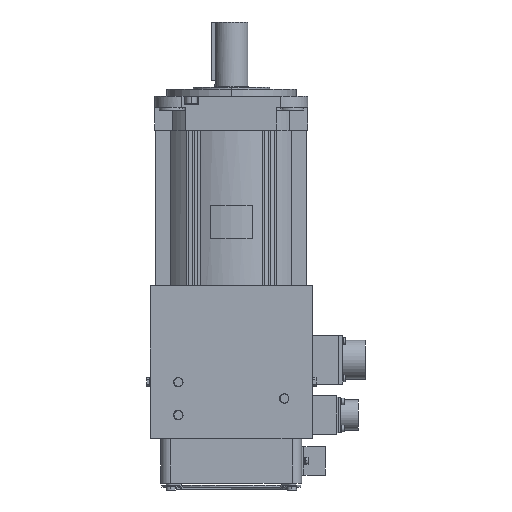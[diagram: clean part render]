
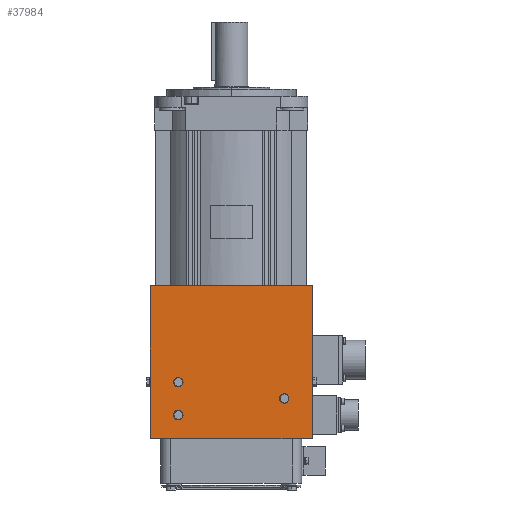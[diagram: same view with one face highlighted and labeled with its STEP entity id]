
A CAD part, left-side view. The second image highlights one B-rep face of the part: STEP entity #37984.
In plain terms, the highlighted planar face has unit normal (-1, 0, 0).
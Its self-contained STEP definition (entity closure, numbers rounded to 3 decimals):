
#5589 = CARTESIAN_POINT ( 'NONE',  ( -68.7, -41., -96. ) ) ;
#5590 = DIRECTION ( 'NONE',  ( 0., -1., 0. ) ) ;
#5591 = DIRECTION ( 'NONE',  ( -1., 0., 0. ) ) ;
#5592 = CARTESIAN_POINT ( 'NONE',  ( -68.7, -45., -96. ) ) ;
#5593 = AXIS2_PLACEMENT_3D ( 'NONE', #5592, #5591, #5590 ) ;
#5594 = CIRCLE ( 'NONE', #5593, 4. ) ;
#5595 = CARTESIAN_POINT ( 'NONE',  ( -68.7, -49., -96. ) ) ;
#5729 = CARTESIAN_POINT ( 'NONE',  ( -68.7, 49., -110. ) ) ;
#5730 = DIRECTION ( 'NONE',  ( 0., -1., 0. ) ) ;
#5731 = DIRECTION ( 'NONE',  ( -1., 0., 0. ) ) ;
#5732 = CARTESIAN_POINT ( 'NONE',  ( -68.7, 45., -110. ) ) ;
#5733 = AXIS2_PLACEMENT_3D ( 'NONE', #5732, #5731, #5730 ) ;
#5734 = CIRCLE ( 'NONE', #5733, 4. ) ;
#5735 = CARTESIAN_POINT ( 'NONE',  ( -68.7, 41., -110. ) ) ;
#5859 = CARTESIAN_POINT ( 'NONE',  ( -68.7, 49., -82. ) ) ;
#5860 = DIRECTION ( 'NONE',  ( 0., -1., 0. ) ) ;
#5861 = DIRECTION ( 'NONE',  ( -1., 0., 0. ) ) ;
#5862 = CARTESIAN_POINT ( 'NONE',  ( -68.7, 45., -82. ) ) ;
#5863 = AXIS2_PLACEMENT_3D ( 'NONE', #5862, #5861, #5860 ) ;
#5864 = CIRCLE ( 'NONE', #5863, 4. ) ;
#5865 = CARTESIAN_POINT ( 'NONE',  ( -68.7, 41., -82. ) ) ;
#8307 = DIRECTION ( 'NONE',  ( 0., 0., 1. ) ) ;
#8308 = VECTOR ( 'NONE', #8307, 1000. ) ;
#8309 = CARTESIAN_POINT ( 'NONE',  ( -68.7, 68.7, -130. ) ) ;
#8310 = LINE ( 'NONE', #8309, #8308 ) ;
#8311 = CARTESIAN_POINT ( 'NONE',  ( -68.7, 68.7, -130. ) ) ;
#8321 = CARTESIAN_POINT ( 'NONE',  ( -68.7, 68.7, 0. ) ) ;
#8437 = CARTESIAN_POINT ( 'NONE',  ( -68.7, -68.7, -130. ) ) ;
#8438 = DIRECTION ( 'NONE',  ( 0., 0., 1. ) ) ;
#8439 = VECTOR ( 'NONE', #8438, 1000. ) ;
#8440 = CARTESIAN_POINT ( 'NONE',  ( -68.7, -68.7, -130. ) ) ;
#8441 = LINE ( 'NONE', #8440, #8439 ) ;
#8442 = CARTESIAN_POINT ( 'NONE',  ( -68.7, -68.7, 0. ) ) ;
#8907 = AXIS2_PLACEMENT_3D ( 'NONE', #8971, #8970, #8969 ) ;
#8908 = CIRCLE ( 'NONE', #8907, 4. ) ;
#8909 = DIRECTION ( 'NONE',  ( 0., -1., 0. ) ) ;
#8910 = DIRECTION ( 'NONE',  ( -1., 0., 0. ) ) ;
#8911 = CARTESIAN_POINT ( 'NONE',  ( -68.7, 45., -82. ) ) ;
#8912 = AXIS2_PLACEMENT_3D ( 'NONE', #8911, #8910, #8909 ) ;
#8913 = CIRCLE ( 'NONE', #8912, 4. ) ;
#8914 = DIRECTION ( 'NONE',  ( 0., -1., 0. ) ) ;
#8915 = VECTOR ( 'NONE', #8914, 1000. ) ;
#8916 = CARTESIAN_POINT ( 'NONE',  ( -68.7, 68.7, -130. ) ) ;
#8917 = LINE ( 'NONE', #8916, #8915 ) ;
#8918 = DIRECTION ( 'NONE',  ( 0., -1., 0. ) ) ;
#8919 = VECTOR ( 'NONE', #8918, 1000. ) ;
#8920 = CARTESIAN_POINT ( 'NONE',  ( -68.7, 68.7, 0. ) ) ;
#8921 = LINE ( 'NONE', #8920, #8919 ) ;
#8942 = DIRECTION ( 'NONE',  ( 0., -1., 0. ) ) ;
#8944 = DIRECTION ( 'NONE',  ( -1., 0., 0. ) ) ;
#8945 = CARTESIAN_POINT ( 'NONE',  ( -68.7, 45., -110. ) ) ;
#8946 = AXIS2_PLACEMENT_3D ( 'NONE', #8945, #8944, #8942 ) ;
#8947 = CIRCLE ( 'NONE', #8946, 4. ) ;
#8948 = DIRECTION ( 'NONE',  ( 0., -1., 0. ) ) ;
#8949 = DIRECTION ( 'NONE',  ( -1., 0., 0. ) ) ;
#8950 = CARTESIAN_POINT ( 'NONE',  ( -68.7, 68.7, -130. ) ) ;
#8951 = AXIS2_PLACEMENT_3D ( 'NONE', #8950, #8949, #8948 ) ;
#8952 = PLANE ( 'NONE',  #8951 ) ;
#8953 = FACE_BOUND ( 'NONE', #37974, .T. ) ;
#8954 = FACE_BOUND ( 'NONE', #37970, .T. ) ;
#8955 = FACE_OUTER_BOUND ( 'NONE', #37989, .T. ) ;
#8956 = FACE_BOUND ( 'NONE', #37985, .T. ) ;
#8969 = DIRECTION ( 'NONE',  ( 0., -1., 0. ) ) ;
#8970 = DIRECTION ( 'NONE',  ( -1., 0., 0. ) ) ;
#8971 = CARTESIAN_POINT ( 'NONE',  ( -68.7, -45., -96. ) ) ;
#36345 = VERTEX_POINT ( 'NONE', #5595 ) ;
#36347 = EDGE_CURVE ( 'NONE', #36345, #36348, #5594, .T. ) ;
#36348 = VERTEX_POINT ( 'NONE', #5589 ) ;
#36407 = VERTEX_POINT ( 'NONE', #5735 ) ;
#36409 = EDGE_CURVE ( 'NONE', #36407, #36410, #5734, .T. ) ;
#36410 = VERTEX_POINT ( 'NONE', #5729 ) ;
#36466 = VERTEX_POINT ( 'NONE', #5865 ) ;
#36468 = EDGE_CURVE ( 'NONE', #36466, #36469, #5864, .T. ) ;
#36469 = VERTEX_POINT ( 'NONE', #5859 ) ;
#37662 = VERTEX_POINT ( 'NONE', #8321 ) ;
#37668 = VERTEX_POINT ( 'NONE', #8311 ) ;
#37670 = EDGE_CURVE ( 'NONE', #37668, #37662, #8310, .T. ) ;
#37736 = VERTEX_POINT ( 'NONE', #8442 ) ;
#37738 = EDGE_CURVE ( 'NONE', #37740, #37736, #8441, .T. ) ;
#37740 = VERTEX_POINT ( 'NONE', #8437 ) ;
#37965 = EDGE_CURVE ( 'NONE', #37662, #37736, #8921, .T. ) ;
#37966 = ORIENTED_EDGE ( 'NONE', *, *, #37670, .F. ) ;
#37967 = ORIENTED_EDGE ( 'NONE', *, *, #37968, .T. ) ;
#37968 = EDGE_CURVE ( 'NONE', #37668, #37740, #8917, .T. ) ;
#37969 = ORIENTED_EDGE ( 'NONE', *, *, #37738, .T. ) ;
#37970 = EDGE_LOOP ( 'NONE', ( #37971, #37973 ) ) ;
#37971 = ORIENTED_EDGE ( 'NONE', *, *, #37972, .F. ) ;
#37972 = EDGE_CURVE ( 'NONE', #36469, #36466, #8913, .T. ) ;
#37973 = ORIENTED_EDGE ( 'NONE', *, *, #36468, .F. ) ;
#37974 = EDGE_LOOP ( 'NONE', ( #37975, #37977 ) ) ;
#37975 = ORIENTED_EDGE ( 'NONE', *, *, #37976, .F. ) ;
#37976 = EDGE_CURVE ( 'NONE', #36348, #36345, #8908, .T. ) ;
#37977 = ORIENTED_EDGE ( 'NONE', *, *, #36347, .F. ) ;
#37984 = ADVANCED_FACE ( 'NONE', ( #8956, #8955, #8954, #8953 ), #8952, .T. ) ;
#37985 = EDGE_LOOP ( 'NONE', ( #37986, #37988 ) ) ;
#37986 = ORIENTED_EDGE ( 'NONE', *, *, #37987, .F. ) ;
#37987 = EDGE_CURVE ( 'NONE', #36410, #36407, #8947, .T. ) ;
#37988 = ORIENTED_EDGE ( 'NONE', *, *, #36409, .F. ) ;
#37989 = EDGE_LOOP ( 'NONE', ( #37990, #37966, #37967, #37969 ) ) ;
#37990 = ORIENTED_EDGE ( 'NONE', *, *, #37965, .F. ) ;
